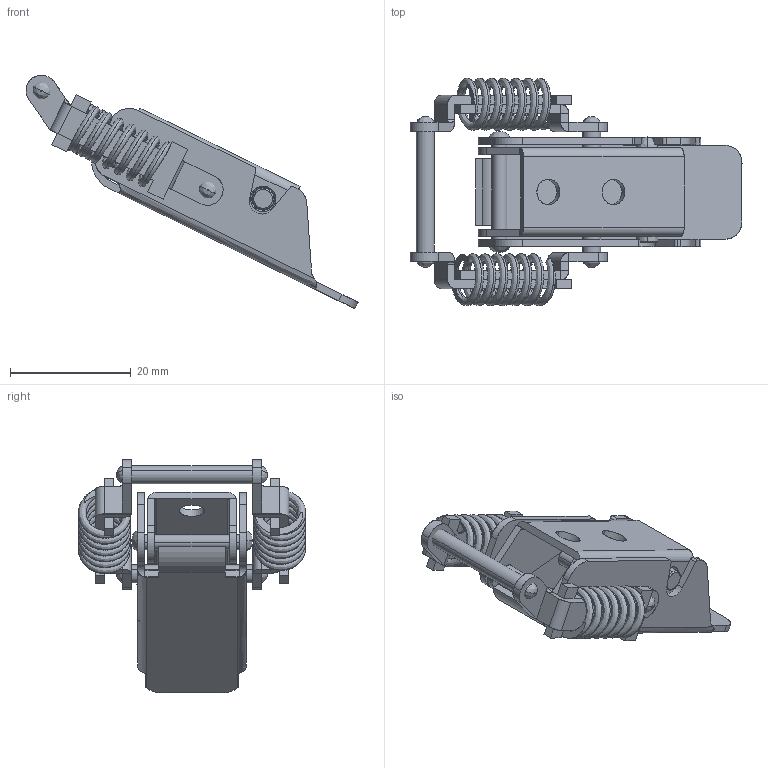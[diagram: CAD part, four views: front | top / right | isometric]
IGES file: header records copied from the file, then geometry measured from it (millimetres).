
Start section: SolidWorks IGES FILE using analytic representation for surfaces
Global section: file name: C:\Documents and Settings\lecoutey\Bureau\GP 2029\GP 2029.IGS; native system: SolidWorks 2004 by SolidWorks Corporation; preprocessor: Version 5.3; author: lecoutey; date: 050329.155333; units: millimetre
Bounding box: 54.9 x 37.6 x 38.61 mm (x, y, z)
Surface area: 9958.6 mm2 (no closed solid volume)
Topology: 0 solids, 0 shells, 263 faces, 3483 edges, 3481 vertices
Faces by surface type: bspline 161, revolution 102
